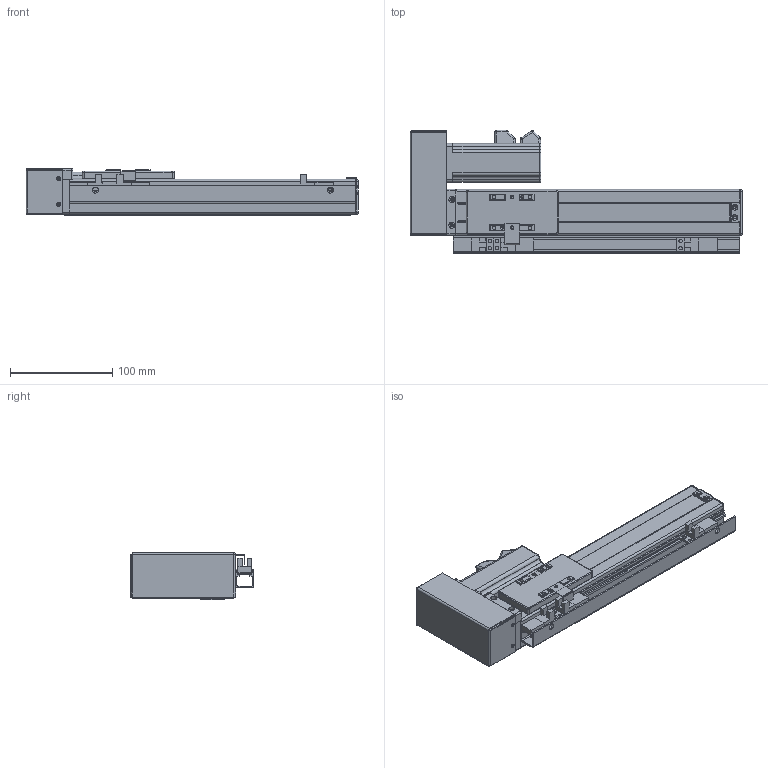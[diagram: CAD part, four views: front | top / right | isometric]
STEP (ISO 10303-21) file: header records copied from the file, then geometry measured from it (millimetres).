
FILE_DESCRIPTION (( 'STEP AP203' ), '1' );
FILE_NAME ('VT4-L12-C-S160-BR-P10-D4.STEP', '2015-10-26T03:42:43', ( '' ), ( '' ), 'SwSTEP 2.0', 'SolidWorks 2013', '' );
FILE_SCHEMA (( 'CONFIG_CONTROL_DESIGN' ));
Length unit declared in the file: millimetre
Products named in the file (17): T4-綴傷裔; T4-耜啣羲耀芞2_俴最160; T4-賑雄殤; T4-裔啣; T4-揤輸; T4-覜茼え; T6-癹弇羲壽羞_俴最160; EE-SX674-WR; SFKR0802佪裝TBI_俴最160; MGW12C-絳寢_俴最160; 侂狟100W MSMD012G1U; T4-BLR 100w萇儂假蚾啣_A6061; T4-BLRM 粣創釱; T4-BLRM ヶ傷揤輸_A6061; 詩湍; T4-BLR 萇儂欶; VT4-L12-C-S160-BR-P10-D4
Assembly tree (19 placements, depth 2):
  VT4-L12-C-S160-BR-P10-D4
    T4-綴傷裔
    T4-耜啣羲耀芞2_俴最160  x2
    T4-賑雄殤
    T4-裔啣
    T4-揤輸
    T4-覜茼え
    T6-癹弇羲壽羞_俴最160
    EE-SX674-WR  x3
    SFKR0802佪裝TBI_俴最160
    MGW12C-絳寢_俴最160
    侂狟100W MSMD012G1U
    T4-BLR 100w萇儂假蚾啣_A6061
    T4-BLRM 粣創釱
    T4-BLRM ヶ傷揤輸_A6061
    詩湍
    T4-BLR 萇儂欶
Bounding box: 325 x 121 x 46.25 mm (x, y, z)
Volume: 380062.6 mm3; surface area: 259351.9 mm2
Topology: 22 solids, 22 shells, 1217 faces, 3254 edges, 2057 vertices
Faces by surface type: plane 562, cylinder 540, cone 57, torus 30, sphere 20, bspline 8
Entity records: 34279 total; most frequent: CARTESIAN_POINT 6536, DIRECTION 5552, ORIENTED_EDGE 5284, EDGE_CURVE 2642, AXIS2_PLACEMENT_3D 1985, VERTEX_POINT 1691, VECTOR 1582, LINE 1582
